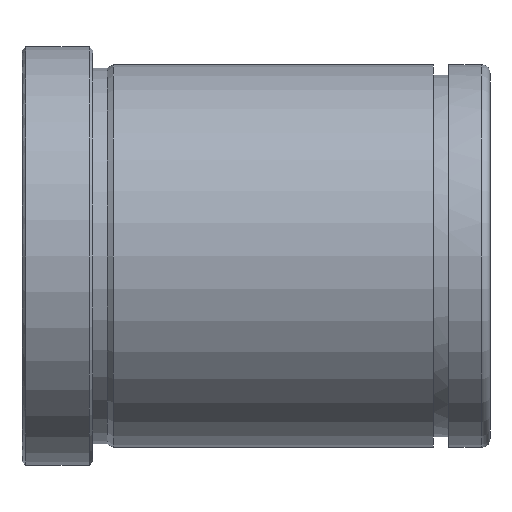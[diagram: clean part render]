
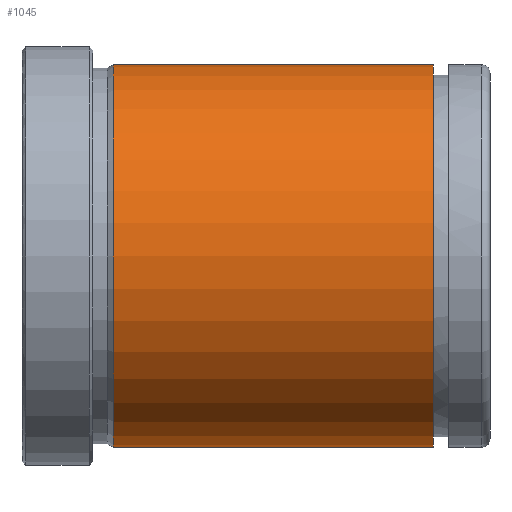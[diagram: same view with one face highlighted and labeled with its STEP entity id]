
A CAD part, front view. The second image highlights one B-rep face of the part: STEP entity #1045.
In plain terms, the highlighted cylindrical face has radius 27 mm (diameter 54 mm), a partial arc.
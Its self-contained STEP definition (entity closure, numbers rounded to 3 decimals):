
#851=CARTESIAN_POINT('Vertex',(12.866,0.,-27.)) ;
#858=CARTESIAN_POINT('Vertex',(12.866,0.,27.)) ;
#887=CARTESIAN_POINT('Axis2P3D Location',(12.866,0.,0.)) ;
#891=CARTESIAN_POINT('Vertex',(12.866,-27.,0.)) ;
#894=CARTESIAN_POINT('Axis2P3D Location',(12.866,0.,0.)) ;
#985=CARTESIAN_POINT('Line Origine',(132.,0.,27.)) ;
#989=CARTESIAN_POINT('Vertex',(58.,0.,27.)) ;
#1003=CARTESIAN_POINT('Vertex',(58.,0.,-27.)) ;
#1006=CARTESIAN_POINT('Line Origine',(132.,0.,-27.)) ;
#1020=CARTESIAN_POINT('Axis2P3D Location',(132.,0.,0.)) ;
#1025=CARTESIAN_POINT('Axis2P3D Location',(58.,0.,0.)) ;
#1029=CARTESIAN_POINT('Vertex',(58.,-27.,0.)) ;
#1032=CARTESIAN_POINT('Axis2P3D Location',(58.,0.,0.)) ;
#888=DIRECTION('Axis2P3D Direction',(1.,0.,-0.)) ;
#895=DIRECTION('Axis2P3D Direction',(1.,0.,-0.)) ;
#986=DIRECTION('Vector Direction',(-1.,0.,0.)) ;
#1007=DIRECTION('Vector Direction',(-1.,0.,0.)) ;
#1021=DIRECTION('Axis2P3D Direction',(-1.,-0.,-0.)) ;
#1022=DIRECTION('Axis2P3D XDirection',(0.,0.,-1.)) ;
#1026=DIRECTION('Axis2P3D Direction',(-1.,-0.,-0.)) ;
#1033=DIRECTION('Axis2P3D Direction',(-1.,-0.,-0.)) ;
#889=AXIS2_PLACEMENT_3D('Circle Axis2P3D',#887,#888,$) ;
#896=AXIS2_PLACEMENT_3D('Circle Axis2P3D',#894,#895,$) ;
#1023=AXIS2_PLACEMENT_3D('Cylinder Axis2P3D',#1020,#1021,#1022) ;
#1027=AXIS2_PLACEMENT_3D('Circle Axis2P3D',#1025,#1026,$) ;
#1034=AXIS2_PLACEMENT_3D('Circle Axis2P3D',#1032,#1033,$) ;
#1038=ORIENTED_EDGE('',*,*,#1010,.T.) ;
#1039=ORIENTED_EDGE('',*,*,#1031,.F.) ;
#1040=ORIENTED_EDGE('',*,*,#1036,.F.) ;
#1041=ORIENTED_EDGE('',*,*,#991,.T.) ;
#1042=ORIENTED_EDGE('',*,*,#898,.T.) ;
#1043=ORIENTED_EDGE('',*,*,#893,.T.) ;
#987=VECTOR('Line Direction',#986,1.) ;
#1008=VECTOR('Line Direction',#1007,1.) ;
#1045=ADVANCED_FACE('553-40X66',(#1044),#1024,.T.) ;
#890=CIRCLE('generated circle',#889,27.) ;
#897=CIRCLE('generated circle',#896,27.) ;
#1028=CIRCLE('generated circle',#1027,27.) ;
#1035=CIRCLE('generated circle',#1034,27.) ;
#1024=CYLINDRICAL_SURFACE('generated cylinder',#1023,27.) ;
#893=EDGE_CURVE('',#892,#852,#890,.T.) ;
#898=EDGE_CURVE('',#859,#892,#897,.T.) ;
#991=EDGE_CURVE('',#990,#859,#988,.T.) ;
#1010=EDGE_CURVE('',#852,#1004,#1009,.F.) ;
#1031=EDGE_CURVE('',#1030,#1004,#1028,.F.) ;
#1036=EDGE_CURVE('',#990,#1030,#1035,.F.) ;
#1037=EDGE_LOOP('',(#1038,#1039,#1040,#1041,#1042,#1043)) ;
#1044=FACE_OUTER_BOUND('',#1037,.T.) ;
#988=LINE('Line',#985,#987) ;
#1009=LINE('Line',#1006,#1008) ;
#852=VERTEX_POINT('',#851) ;
#859=VERTEX_POINT('',#858) ;
#892=VERTEX_POINT('',#891) ;
#990=VERTEX_POINT('',#989) ;
#1004=VERTEX_POINT('',#1003) ;
#1030=VERTEX_POINT('',#1029) ;
